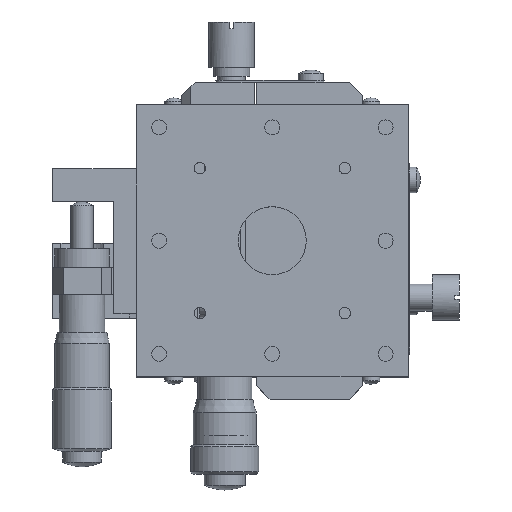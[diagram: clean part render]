
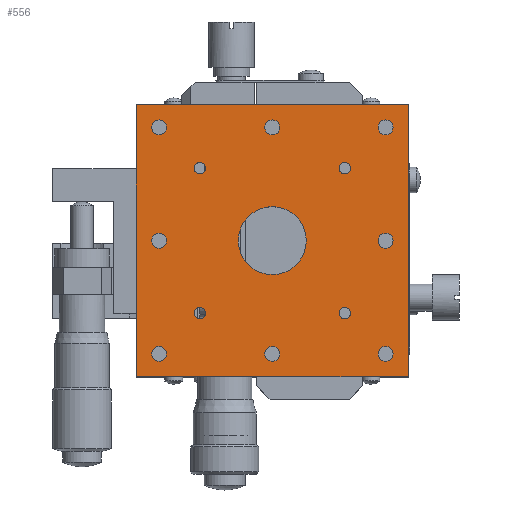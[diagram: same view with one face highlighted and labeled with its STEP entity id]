
A CAD part, top view. The second image highlights one B-rep face of the part: STEP entity #556.
In plain terms, the highlighted planar face has unit normal (0, 0, 1).
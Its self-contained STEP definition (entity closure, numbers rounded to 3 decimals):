
#556 = ADVANCED_FACE( '', ( #1267, #1268, #1269, #1270, #1271, #1272, #1273, #1274, #1275, #1276, #1277, #1278, #1279, #1280 ), #1281, .T. );
#1267 = FACE_BOUND( '', #2302, .T. );
#1268 = FACE_BOUND( '', #2303, .T. );
#1269 = FACE_BOUND( '', #2304, .T. );
#1270 = FACE_BOUND( '', #2305, .T. );
#1271 = FACE_BOUND( '', #2306, .T. );
#1272 = FACE_BOUND( '', #2307, .T. );
#1273 = FACE_BOUND( '', #2308, .T. );
#1274 = FACE_BOUND( '', #2309, .T. );
#1275 = FACE_BOUND( '', #2310, .T. );
#1276 = FACE_BOUND( '', #2311, .T. );
#1277 = FACE_BOUND( '', #2312, .T. );
#1278 = FACE_BOUND( '', #2313, .T. );
#1279 = FACE_BOUND( '', #2314, .T. );
#1280 = FACE_OUTER_BOUND( '', #2315, .T. );
#1281 = PLANE( '', #2316 );
#2302 = EDGE_LOOP( '', ( #4225 ) );
#2303 = EDGE_LOOP( '', ( #4226 ) );
#2304 = EDGE_LOOP( '', ( #4227 ) );
#2305 = EDGE_LOOP( '', ( #4228 ) );
#2306 = EDGE_LOOP( '', ( #4229 ) );
#2307 = EDGE_LOOP( '', ( #4230 ) );
#2308 = EDGE_LOOP( '', ( #4231 ) );
#2309 = EDGE_LOOP( '', ( #4232 ) );
#2310 = EDGE_LOOP( '', ( #4233 ) );
#2311 = EDGE_LOOP( '', ( #4234 ) );
#2312 = EDGE_LOOP( '', ( #4235 ) );
#2313 = EDGE_LOOP( '', ( #4236 ) );
#2314 = EDGE_LOOP( '', ( #4237 ) );
#2315 = EDGE_LOOP( '', ( #4238, #4239, #4240, #4241 ) );
#2316 = AXIS2_PLACEMENT_3D( '', #4242, #4243, #4244 );
#4225 = ORIENTED_EDGE( '', *, *, #5958, .T. );
#4226 = ORIENTED_EDGE( '', *, *, #5959, .T. );
#4227 = ORIENTED_EDGE( '', *, *, #5960, .T. );
#4228 = ORIENTED_EDGE( '', *, *, #5961, .T. );
#4229 = ORIENTED_EDGE( '', *, *, #5962, .T. );
#4230 = ORIENTED_EDGE( '', *, *, #5963, .T. );
#4231 = ORIENTED_EDGE( '', *, *, #5964, .T. );
#4232 = ORIENTED_EDGE( '', *, *, #5965, .T. );
#4233 = ORIENTED_EDGE( '', *, *, #5966, .T. );
#4234 = ORIENTED_EDGE( '', *, *, #5967, .T. );
#4235 = ORIENTED_EDGE( '', *, *, #5968, .T. );
#4236 = ORIENTED_EDGE( '', *, *, #5969, .T. );
#4237 = ORIENTED_EDGE( '', *, *, #5970, .T. );
#4238 = ORIENTED_EDGE( '', *, *, #5971, .F. );
#4239 = ORIENTED_EDGE( '', *, *, #5972, .F. );
#4240 = ORIENTED_EDGE( '', *, *, #5973, .F. );
#4241 = ORIENTED_EDGE( '', *, *, #5974, .F. );
#4242 = CARTESIAN_POINT( '', ( 0., 0., 60. ) );
#4243 = DIRECTION( '', ( 0., 0., 1. ) );
#4244 = DIRECTION( '', ( 0., -1., 0. ) );
#5958 = EDGE_CURVE( '', #7020, #7020, #7021, .T. );
#5959 = EDGE_CURVE( '', #7022, #7022, #7023, .T. );
#5960 = EDGE_CURVE( '', #7024, #7024, #7025, .T. );
#5961 = EDGE_CURVE( '', #7026, #7026, #7027, .T. );
#5962 = EDGE_CURVE( '', #7028, #7028, #7029, .T. );
#5963 = EDGE_CURVE( '', #7030, #7030, #7031, .T. );
#5964 = EDGE_CURVE( '', #7032, #7032, #7033, .T. );
#5965 = EDGE_CURVE( '', #7034, #7034, #7035, .T. );
#5966 = EDGE_CURVE( '', #7036, #7036, #7037, .T. );
#5967 = EDGE_CURVE( '', #7038, #7038, #7039, .T. );
#5968 = EDGE_CURVE( '', #7040, #7040, #7041, .T. );
#5969 = EDGE_CURVE( '', #7042, #7042, #7043, .T. );
#5970 = EDGE_CURVE( '', #7044, #7044, #7045, .T. );
#5971 = EDGE_CURVE( '', #7046, #7047, #7048, .T. );
#5972 = EDGE_CURVE( '', #7049, #7046, #7050, .T. );
#5973 = EDGE_CURVE( '', #7051, #7049, #7052, .T. );
#5974 = EDGE_CURVE( '', #7047, #7051, #7053, .T. );
#7020 = VERTEX_POINT( '', #8701 );
#7021 = CIRCLE( '', #8702, 7.5 );
#7022 = VERTEX_POINT( '', #8703 );
#7023 = CIRCLE( '', #8704, 1.25 );
#7024 = VERTEX_POINT( '', #8705 );
#7025 = CIRCLE( '', #8706, 1.25 );
#7026 = VERTEX_POINT( '', #8707 );
#7027 = CIRCLE( '', #8708, 1.25 );
#7028 = VERTEX_POINT( '', #8709 );
#7029 = CIRCLE( '', #8710, 1.25 );
#7030 = VERTEX_POINT( '', #8711 );
#7031 = CIRCLE( '', #8712, 1.65 );
#7032 = VERTEX_POINT( '', #8713 );
#7033 = CIRCLE( '', #8714, 1.65 );
#7034 = VERTEX_POINT( '', #8715 );
#7035 = CIRCLE( '', #8716, 1.65 );
#7036 = VERTEX_POINT( '', #8717 );
#7037 = CIRCLE( '', #8718, 1.65 );
#7038 = VERTEX_POINT( '', #8719 );
#7039 = CIRCLE( '', #8720, 1.65 );
#7040 = VERTEX_POINT( '', #8721 );
#7041 = CIRCLE( '', #8722, 1.65 );
#7042 = VERTEX_POINT( '', #8723 );
#7043 = CIRCLE( '', #8724, 1.65 );
#7044 = VERTEX_POINT( '', #8725 );
#7045 = CIRCLE( '', #8726, 1.65 );
#7046 = VERTEX_POINT( '', #8727 );
#7047 = VERTEX_POINT( '', #8728 );
#7048 = LINE( '', #8729, #8730 );
#7049 = VERTEX_POINT( '', #8731 );
#7050 = LINE( '', #8732, #8733 );
#7051 = VERTEX_POINT( '', #8734 );
#7052 = LINE( '', #8735, #8736 );
#7053 = LINE( '', #8737, #8738 );
#8701 = CARTESIAN_POINT( '', ( 0., -7.5, 60. ) );
#8702 = AXIS2_PLACEMENT_3D( '', #10489, #10490, #10491 );
#8703 = CARTESIAN_POINT( '', ( 16., -17.25, 60. ) );
#8704 = AXIS2_PLACEMENT_3D( '', #10492, #10493, #10494 );
#8705 = CARTESIAN_POINT( '', ( 16., 14.75, 60. ) );
#8706 = AXIS2_PLACEMENT_3D( '', #10495, #10496, #10497 );
#8707 = CARTESIAN_POINT( '', ( -16., 14.75, 60. ) );
#8708 = AXIS2_PLACEMENT_3D( '', #10498, #10499, #10500 );
#8709 = CARTESIAN_POINT( '', ( -16., -17.25, 60. ) );
#8710 = AXIS2_PLACEMENT_3D( '', #10501, #10502, #10503 );
#8711 = CARTESIAN_POINT( '', ( -25., -1.65, 60. ) );
#8712 = AXIS2_PLACEMENT_3D( '', #10504, #10505, #10506 );
#8713 = CARTESIAN_POINT( '', ( -25., 23.35, 60. ) );
#8714 = AXIS2_PLACEMENT_3D( '', #10507, #10508, #10509 );
#8715 = CARTESIAN_POINT( '', ( 0., 23.35, 60. ) );
#8716 = AXIS2_PLACEMENT_3D( '', #10510, #10511, #10512 );
#8717 = CARTESIAN_POINT( '', ( 25., 23.35, 60. ) );
#8718 = AXIS2_PLACEMENT_3D( '', #10513, #10514, #10515 );
#8719 = CARTESIAN_POINT( '', ( 25., -1.65, 60. ) );
#8720 = AXIS2_PLACEMENT_3D( '', #10516, #10517, #10518 );
#8721 = CARTESIAN_POINT( '', ( 25., -26.65, 60. ) );
#8722 = AXIS2_PLACEMENT_3D( '', #10519, #10520, #10521 );
#8723 = CARTESIAN_POINT( '', ( 0., -26.65, 60. ) );
#8724 = AXIS2_PLACEMENT_3D( '', #10522, #10523, #10524 );
#8725 = CARTESIAN_POINT( '', ( -25., -26.65, 60. ) );
#8726 = AXIS2_PLACEMENT_3D( '', #10525, #10526, #10527 );
#8727 = CARTESIAN_POINT( '', ( -30., -30., 60. ) );
#8728 = CARTESIAN_POINT( '', ( -30., 30., 60. ) );
#8729 = CARTESIAN_POINT( '', ( -30., 0., 60. ) );
#8730 = VECTOR( '', #10528, 1000. );
#8731 = CARTESIAN_POINT( '', ( 30., -30., 60. ) );
#8732 = CARTESIAN_POINT( '', ( 0., -30., 60. ) );
#8733 = VECTOR( '', #10529, 1000. );
#8734 = CARTESIAN_POINT( '', ( 30., 30., 60. ) );
#8735 = CARTESIAN_POINT( '', ( 30., 0., 60. ) );
#8736 = VECTOR( '', #10530, 1000. );
#8737 = CARTESIAN_POINT( '', ( 0., 30., 60. ) );
#8738 = VECTOR( '', #10531, 1000. );
#10489 = CARTESIAN_POINT( '', ( 0., 0., 60. ) );
#10490 = DIRECTION( '', ( 0., 0., -1. ) );
#10491 = DIRECTION( '', ( 0., -1., 0. ) );
#10492 = CARTESIAN_POINT( '', ( 16., -16., 60. ) );
#10493 = DIRECTION( '', ( 0., 0., -1. ) );
#10494 = DIRECTION( '', ( 0., -1., 0. ) );
#10495 = CARTESIAN_POINT( '', ( 16., 16., 60. ) );
#10496 = DIRECTION( '', ( 0., 0., -1. ) );
#10497 = DIRECTION( '', ( 0., -1., 0. ) );
#10498 = CARTESIAN_POINT( '', ( -16., 16., 60. ) );
#10499 = DIRECTION( '', ( 0., 0., -1. ) );
#10500 = DIRECTION( '', ( 0., -1., 0. ) );
#10501 = CARTESIAN_POINT( '', ( -16., -16., 60. ) );
#10502 = DIRECTION( '', ( 0., 0., -1. ) );
#10503 = DIRECTION( '', ( 0., -1., 0. ) );
#10504 = CARTESIAN_POINT( '', ( -25., 0., 60. ) );
#10505 = DIRECTION( '', ( 0., 0., -1. ) );
#10506 = DIRECTION( '', ( 0., -1., 0. ) );
#10507 = CARTESIAN_POINT( '', ( -25., 25., 60. ) );
#10508 = DIRECTION( '', ( 0., 0., -1. ) );
#10509 = DIRECTION( '', ( 0., -1., 0. ) );
#10510 = CARTESIAN_POINT( '', ( 0., 25., 60. ) );
#10511 = DIRECTION( '', ( 0., 0., -1. ) );
#10512 = DIRECTION( '', ( 0., -1., 0. ) );
#10513 = CARTESIAN_POINT( '', ( 25., 25., 60. ) );
#10514 = DIRECTION( '', ( 0., 0., -1. ) );
#10515 = DIRECTION( '', ( 0., -1., 0. ) );
#10516 = CARTESIAN_POINT( '', ( 25., 0., 60. ) );
#10517 = DIRECTION( '', ( 0., 0., -1. ) );
#10518 = DIRECTION( '', ( 0., -1., 0. ) );
#10519 = CARTESIAN_POINT( '', ( 25., -25., 60. ) );
#10520 = DIRECTION( '', ( 0., 0., -1. ) );
#10521 = DIRECTION( '', ( 0., -1., 0. ) );
#10522 = CARTESIAN_POINT( '', ( 0., -25., 60. ) );
#10523 = DIRECTION( '', ( 0., 0., -1. ) );
#10524 = DIRECTION( '', ( 0., -1., 0. ) );
#10525 = CARTESIAN_POINT( '', ( -25., -25., 60. ) );
#10526 = DIRECTION( '', ( 0., 0., -1. ) );
#10527 = DIRECTION( '', ( 0., -1., 0. ) );
#10528 = DIRECTION( '', ( 0., 1., 0. ) );
#10529 = DIRECTION( '', ( -1., 0., 0. ) );
#10530 = DIRECTION( '', ( 0., -1., 0. ) );
#10531 = DIRECTION( '', ( 1., 0., 0. ) );
